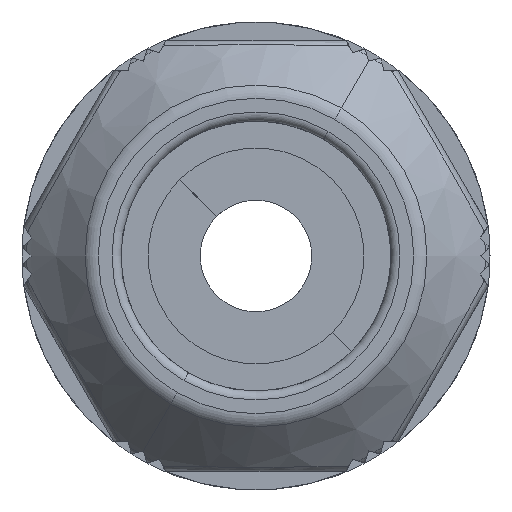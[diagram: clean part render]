
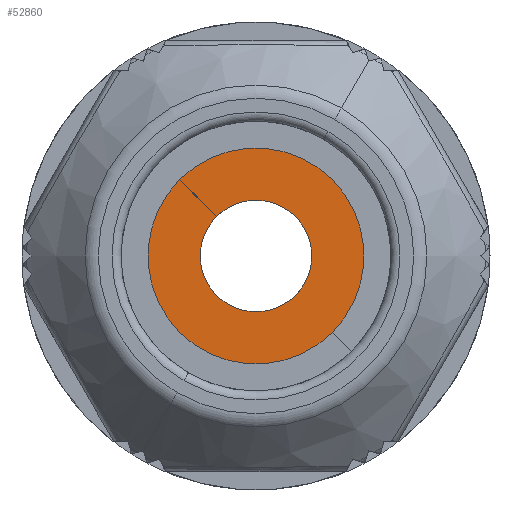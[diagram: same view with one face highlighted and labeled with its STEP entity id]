
A CAD part, left-side view. The second image highlights one B-rep face of the part: STEP entity #52860.
In plain terms, the highlighted planar face has unit normal (-1, 0, 0) as drawn and (0, 0, -1) by its records, which use the part's own axes.
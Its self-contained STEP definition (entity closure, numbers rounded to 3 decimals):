
#52450=CARTESIAN_POINT('',(0.,0.,0.));
#52460=DIRECTION('',(0.,0.,1.));
#52470=DIRECTION('',(1.,0.,0.));
#52480=AXIS2_PLACEMENT_3D('',#52450,#52460,#52470);
#52490=PLANE('',#52480);
#52500=CARTESIAN_POINT('',(-0.007,0.,0.));
#52510=DIRECTION('',(0.707,-0.707,0.));
#52520=VECTOR('',#52510,1.);
#52530=LINE('',#52500,#52520);
#52540=CARTESIAN_POINT('',(2.188,-2.196,0.));
#52550=VERTEX_POINT('',#52540);
#52560=CARTESIAN_POINT('',(4.239,-4.246,0.));
#52570=VERTEX_POINT('',#52560);
#52580=EDGE_CURVE('',#52550,#52570,#52530,.T.);
#52590=ORIENTED_EDGE('',*,*,#52580,.T.);
#52600=CARTESIAN_POINT('',(0.,0.,0.));
#52610=DIRECTION('',(0.,0.,1.));
#52620=DIRECTION('',(1.,0.,0.));
#52630=AXIS2_PLACEMENT_3D('',#52600,#52610,#52620);
#52640=CIRCLE('',#52630,3.1);
#52650=CARTESIAN_POINT('',(2.196,-2.188,0.));
#52660=VERTEX_POINT('',#52650);
#52670=EDGE_CURVE('',#52660,#52550,#52640,.T.);
#52680=ORIENTED_EDGE('',*,*,#52670,.T.);
#52690=CARTESIAN_POINT('',(0.007,0.,0.));
#52700=DIRECTION('',(-0.707,0.707,0.));
#52710=VECTOR('',#52700,1.);
#52720=LINE('',#52690,#52710);
#52730=CARTESIAN_POINT('',(4.246,-4.239,0.));
#52740=VERTEX_POINT('',#52730);
#52750=EDGE_CURVE('',#52740,#52660,#52720,.T.);
#52760=ORIENTED_EDGE('',*,*,#52750,.T.);
#52770=CARTESIAN_POINT('',(0.,0.,0.));
#52780=DIRECTION('',(0.,0.,1.));
#52790=DIRECTION('',(1.,0.,0.));
#52800=AXIS2_PLACEMENT_3D('',#52770,#52780,#52790);
#52810=CIRCLE('',#52800,6.);
#52820=EDGE_CURVE('',#52740,#52570,#52810,.T.);
#52830=ORIENTED_EDGE('',*,*,#52820,.F.);
#52840=EDGE_LOOP('',(#52830,#52760,#52680,#52590));
#52850=FACE_OUTER_BOUND('',#52840,.T.);
#52860=ADVANCED_FACE('',(#52850),#52490,.F.);
